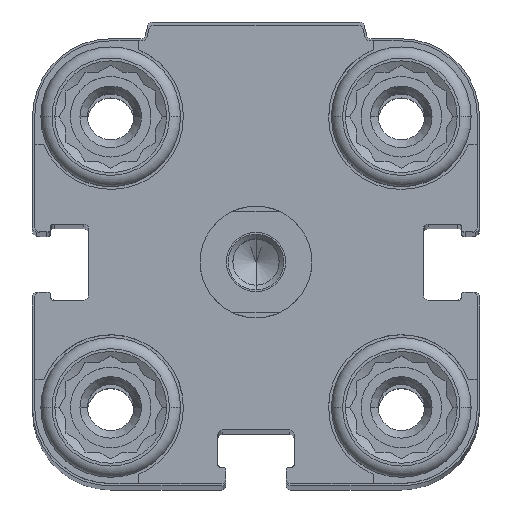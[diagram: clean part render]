
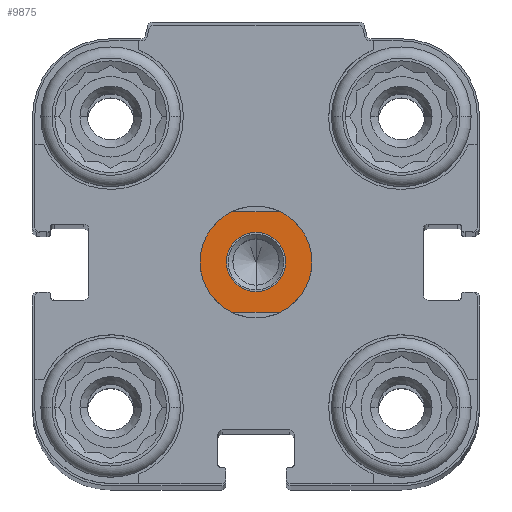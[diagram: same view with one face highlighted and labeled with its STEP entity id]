
A CAD part, top view. The second image highlights one B-rep face of the part: STEP entity #9875.
In plain terms, the highlighted planar face has unit normal (0, 0, 1).
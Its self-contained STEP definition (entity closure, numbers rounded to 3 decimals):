
#166 = CARTESIAN_POINT ( 'NONE',  ( 5., 0., 5.5 ) ) ;
#540 = AXIS2_PLACEMENT_3D ( 'NONE', #2540, #18035, #1223 ) ;
#713 = DIRECTION ( 'NONE',  ( 0., 0., -1. ) ) ;
#785 = DIRECTION ( 'NONE',  ( 0., 0., -1. ) ) ;
#1223 = DIRECTION ( 'NONE',  ( -1., 0., 0. ) ) ;
#1391 = ORIENTED_EDGE ( 'NONE', *, *, #16860, .T. ) ;
#1566 = ORIENTED_EDGE ( 'NONE', *, *, #10412, .T. ) ;
#2131 = CARTESIAN_POINT ( 'NONE',  ( -9., 4.5, 5.5 ) ) ;
#2280 = DIRECTION ( 'NONE',  ( 0., 1., 0. ) ) ;
#2282 = ORIENTED_EDGE ( 'NONE', *, *, #13964, .F. ) ;
#2347 = VERTEX_POINT ( 'NONE', #9624 ) ;
#2452 = LINE ( 'NONE', #18422, #16472 ) ;
#2540 = CARTESIAN_POINT ( 'NONE',  ( 0., 0., 5.5 ) ) ;
#2819 = VERTEX_POINT ( 'NONE', #11375 ) ;
#3332 = EDGE_LOOP ( 'NONE', ( #1391, #1566 ) ) ;
#3365 = VERTEX_POINT ( 'NONE', #7853 ) ;
#3642 = CIRCLE ( 'NONE', #5732, 2.65 ) ;
#3765 = CARTESIAN_POINT ( 'NONE',  ( 0., 0., 5.5 ) ) ;
#4053 = DIRECTION ( 'NONE',  ( -1., 0., 0. ) ) ;
#4198 = CARTESIAN_POINT ( 'NONE',  ( 2.179, 4.5, 5.5 ) ) ;
#4636 = AXIS2_PLACEMENT_3D ( 'NONE', #16275, #6223, #2280 ) ;
#4738 = PLANE ( 'NONE',  #8431 ) ;
#4814 = CARTESIAN_POINT ( 'NONE',  ( 0., 0., 5.5 ) ) ;
#4835 = CARTESIAN_POINT ( 'NONE',  ( 0., 0., 5.5 ) ) ;
#4896 = AXIS2_PLACEMENT_3D ( 'NONE', #4814, #785, #9216 ) ;
#5423 = CARTESIAN_POINT ( 'NONE',  ( 0., 2.65, 5.5 ) ) ;
#5732 = AXIS2_PLACEMENT_3D ( 'NONE', #3765, #9482, #7991 ) ;
#6223 = DIRECTION ( 'NONE',  ( 0., 0., -1. ) ) ;
#6330 = DIRECTION ( 'NONE',  ( 0., 1., 0. ) ) ;
#6840 = EDGE_CURVE ( 'NONE', #15608, #3365, #8617, .T. ) ;
#7179 = AXIS2_PLACEMENT_3D ( 'NONE', #12901, #11591, #14411 ) ;
#7246 = VERTEX_POINT ( 'NONE', #7968 ) ;
#7272 = VERTEX_POINT ( 'NONE', #4198 ) ;
#7655 = ORIENTED_EDGE ( 'NONE', *, *, #10996, .F. ) ;
#7853 = CARTESIAN_POINT ( 'NONE',  ( -2.179, 4.5, 5.5 ) ) ;
#7968 = CARTESIAN_POINT ( 'NONE',  ( -2.179, -4.5, 5.5 ) ) ;
#7991 = DIRECTION ( 'NONE',  ( 0., 1., 0. ) ) ;
#8431 = AXIS2_PLACEMENT_3D ( 'NONE', #4835, #713, #6330 ) ;
#8573 = CARTESIAN_POINT ( 'NONE',  ( -5., 0., 5.5 ) ) ;
#8596 = DIRECTION ( 'NONE',  ( 0., 0., -1. ) ) ;
#8617 = CIRCLE ( 'NONE', #540, 5. ) ;
#8984 = LINE ( 'NONE', #2131, #16570 ) ;
#9216 = DIRECTION ( 'NONE',  ( -1., 0., 0. ) ) ;
#9482 = DIRECTION ( 'NONE',  ( 0., 0., -1. ) ) ;
#9624 = CARTESIAN_POINT ( 'NONE',  ( 0., -2.65, 5.5 ) ) ;
#9782 = ORIENTED_EDGE ( 'NONE', *, *, #12751, .F. ) ;
#9875 = ADVANCED_FACE ( 'NONE', ( #10649, #13543 ), #4738, .F. ) ;
#10412 = EDGE_CURVE ( 'NONE', #2347, #13831, #3642, .T. ) ;
#10589 = CIRCLE ( 'NONE', #4896, 5. ) ;
#10649 = FACE_OUTER_BOUND ( 'NONE', #11523, .T. ) ;
#10838 = ORIENTED_EDGE ( 'NONE', *, *, #6840, .F. ) ;
#10996 = EDGE_CURVE ( 'NONE', #13955, #2819, #15576, .T. ) ;
#11375 = CARTESIAN_POINT ( 'NONE',  ( 2.179, -4.5, 5.5 ) ) ;
#11411 = CARTESIAN_POINT ( 'NONE',  ( 0., 0., 5.5 ) ) ;
#11523 = EDGE_LOOP ( 'NONE', ( #15464, #10838, #2282, #17425, #7655, #9782 ) ) ;
#11591 = DIRECTION ( 'NONE',  ( 0., 0., -1. ) ) ;
#11671 = EDGE_CURVE ( 'NONE', #2819, #7246, #2452, .T. ) ;
#12085 = DIRECTION ( 'NONE',  ( 1., 0., 0. ) ) ;
#12364 = EDGE_CURVE ( 'NONE', #3365, #7272, #8984, .T. ) ;
#12751 = EDGE_CURVE ( 'NONE', #7272, #13955, #10589, .T. ) ;
#12901 = CARTESIAN_POINT ( 'NONE',  ( 0., 0., 5.5 ) ) ;
#12973 = CIRCLE ( 'NONE', #18397, 5. ) ;
#13543 = FACE_BOUND ( 'NONE', #3332, .T. ) ;
#13831 = VERTEX_POINT ( 'NONE', #5423 ) ;
#13955 = VERTEX_POINT ( 'NONE', #166 ) ;
#13964 = EDGE_CURVE ( 'NONE', #7246, #15608, #12973, .T. ) ;
#14411 = DIRECTION ( 'NONE',  ( -1., 0., 0. ) ) ;
#14829 = CIRCLE ( 'NONE', #4636, 2.65 ) ;
#15464 = ORIENTED_EDGE ( 'NONE', *, *, #12364, .F. ) ;
#15576 = CIRCLE ( 'NONE', #7179, 5. ) ;
#15608 = VERTEX_POINT ( 'NONE', #8573 ) ;
#15829 = DIRECTION ( 'NONE',  ( -1., 0., 0. ) ) ;
#16275 = CARTESIAN_POINT ( 'NONE',  ( 0., 0., 5.5 ) ) ;
#16472 = VECTOR ( 'NONE', #4053, 1000. ) ;
#16570 = VECTOR ( 'NONE', #12085, 1000. ) ;
#16860 = EDGE_CURVE ( 'NONE', #13831, #2347, #14829, .T. ) ;
#17425 = ORIENTED_EDGE ( 'NONE', *, *, #11671, .F. ) ;
#18035 = DIRECTION ( 'NONE',  ( 0., 0., -1. ) ) ;
#18397 = AXIS2_PLACEMENT_3D ( 'NONE', #11411, #8596, #15829 ) ;
#18422 = CARTESIAN_POINT ( 'NONE',  ( 9., -4.5, 5.5 ) ) ;
